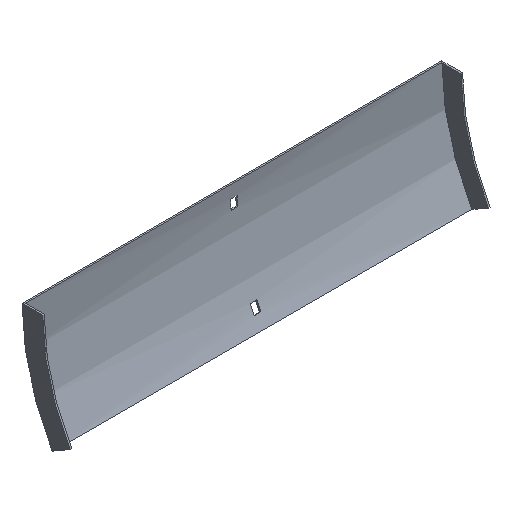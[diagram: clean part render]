
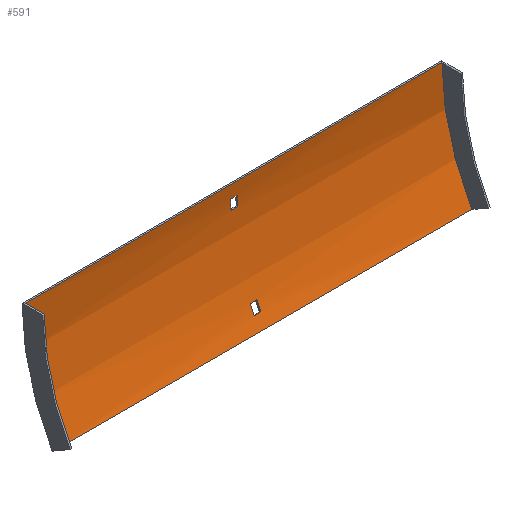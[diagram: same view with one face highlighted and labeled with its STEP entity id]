
A CAD part, isometric view. The second image highlights one B-rep face of the part: STEP entity #591.
In plain terms, the highlighted cylindrical face has radius 217.5 mm (diameter 435 mm), a partial arc.
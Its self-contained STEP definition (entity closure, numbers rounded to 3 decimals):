
#1 = CIRCLE ( 'NONE', #589, 217.5 ) ;
#2 = AXIS2_PLACEMENT_3D ( 'NONE', #277, #271, #31 ) ;
#4 = CARTESIAN_POINT ( 'NONE',  ( -3.25, -21.02, -90.055 ) ) ;
#9 = EDGE_CURVE ( 'NONE', #347, #408, #341, .T. ) ;
#17 = LINE ( 'NONE', #441, #20 ) ;
#20 = VECTOR ( 'NONE', #579, 1000. ) ;
#29 = ORIENTED_EDGE ( 'NONE', *, *, #130, .T. ) ;
#30 = VERTEX_POINT ( 'NONE', #133 ) ;
#31 = DIRECTION ( 'NONE',  ( 0., 0., -1. ) ) ;
#42 = CARTESIAN_POINT ( 'NONE',  ( 202., -1.5, 0. ) ) ;
#44 = DIRECTION ( 'NONE',  ( 0., 0., -1. ) ) ;
#58 = CARTESIAN_POINT ( 'NONE',  ( -202., -1.5, 0. ) ) ;
#62 = ORIENTED_EDGE ( 'NONE', *, *, #112, .T. ) ;
#66 = EDGE_LOOP ( 'NONE', ( #544, #265, #479, #169 ) ) ;
#67 = VERTEX_POINT ( 'NONE', #131 ) ;
#71 = LINE ( 'NONE', #396, #520 ) ;
#73 = VERTEX_POINT ( 'NONE', #505 ) ;
#75 = CARTESIAN_POINT ( 'NONE',  ( -3.25, -219., 0. ) ) ;
#80 = AXIS2_PLACEMENT_3D ( 'NONE', #607, #186, #326 ) ;
#88 = CARTESIAN_POINT ( 'NONE',  ( 202., -219., 0. ) ) ;
#90 = DIRECTION ( 'NONE',  ( -1., 0., 0. ) ) ;
#91 = VECTOR ( 'NONE', #90, 1000. ) ;
#112 = EDGE_CURVE ( 'NONE', #30, #67, #421, .T. ) ;
#120 = EDGE_CURVE ( 'NONE', #249, #122, #201, .T. ) ;
#121 = CIRCLE ( 'NONE', #561, 217.5 ) ;
#122 = VERTEX_POINT ( 'NONE', #42 ) ;
#130 = EDGE_CURVE ( 'NONE', #122, #147, #180, .T. ) ;
#131 = CARTESIAN_POINT ( 'NONE',  ( 3.25, -24.926, -98.192 ) ) ;
#133 = CARTESIAN_POINT ( 'NONE',  ( 3.25, -21.02, -90.055 ) ) ;
#141 = CIRCLE ( 'NONE', #2, 217.5 ) ;
#144 = CARTESIAN_POINT ( 'NONE',  ( 203.5, -219., 0. ) ) ;
#147 = VERTEX_POINT ( 'NONE', #58 ) ;
#153 = ORIENTED_EDGE ( 'NONE', *, *, #381, .T. ) ;
#155 = AXIS2_PLACEMENT_3D ( 'NONE', #88, #278, #463 ) ;
#169 = ORIENTED_EDGE ( 'NONE', *, *, #345, .F. ) ;
#175 = VECTOR ( 'NONE', #346, 1000. ) ;
#180 = LINE ( 'NONE', #370, #91 ) ;
#182 = CYLINDRICAL_SURFACE ( 'NONE', #485, 217.5 ) ;
#184 = DIRECTION ( 'NONE',  ( -1., 0., 0. ) ) ;
#186 = DIRECTION ( 'NONE',  ( -1., 0., 0. ) ) ;
#201 = CIRCLE ( 'NONE', #155, 217.5 ) ;
#246 = FACE_BOUND ( 'NONE', #66, .T. ) ;
#249 = VERTEX_POINT ( 'NONE', #339 ) ;
#261 = DIRECTION ( 'NONE',  ( 1., 0., 0. ) ) ;
#265 = ORIENTED_EDGE ( 'NONE', *, *, #412, .F. ) ;
#271 = DIRECTION ( 'NONE',  ( 1., 0., 0. ) ) ;
#277 = CARTESIAN_POINT ( 'NONE',  ( 3.25, -219., 0. ) ) ;
#278 = DIRECTION ( 'NONE',  ( 1., 0., 0. ) ) ;
#285 = EDGE_CURVE ( 'NONE', #359, #147, #121, .T. ) ;
#294 = EDGE_CURVE ( 'NONE', #590, #30, #17, .T. ) ;
#303 = CARTESIAN_POINT ( 'NONE',  ( -202., -30.639, -108.75 ) ) ;
#304 = EDGE_LOOP ( 'NONE', ( #432, #438, #486, #29 ) ) ;
#317 = DIRECTION ( 'NONE',  ( -1., 0., 0. ) ) ;
#319 = AXIS2_PLACEMENT_3D ( 'NONE', #557, #368, #555 ) ;
#325 = LINE ( 'NONE', #506, #343 ) ;
#326 = DIRECTION ( 'NONE',  ( 0., 0., 1. ) ) ;
#332 = CARTESIAN_POINT ( 'NONE',  ( 3.25, -1.831, -12. ) ) ;
#337 = EDGE_CURVE ( 'NONE', #67, #559, #532, .T. ) ;
#339 = CARTESIAN_POINT ( 'NONE',  ( 202., -30.639, -108.75 ) ) ;
#341 = CIRCLE ( 'NONE', #80, 217.5 ) ;
#343 = VECTOR ( 'NONE', #317, 1000. ) ;
#345 = EDGE_CURVE ( 'NONE', #408, #73, #71, .T. ) ;
#346 = DIRECTION ( 'NONE',  ( -1., 0., 0. ) ) ;
#347 = VERTEX_POINT ( 'NONE', #582 ) ;
#359 = VERTEX_POINT ( 'NONE', #303 ) ;
#368 = DIRECTION ( 'NONE',  ( -1., 0., 0. ) ) ;
#370 = CARTESIAN_POINT ( 'NONE',  ( 202., -1.5, 0. ) ) ;
#375 = DIRECTION ( 'NONE',  ( 0., 0., 1. ) ) ;
#381 = EDGE_CURVE ( 'NONE', #559, #590, #1, .T. ) ;
#383 = FACE_BOUND ( 'NONE', #495, .T. ) ;
#389 = EDGE_CURVE ( 'NONE', #249, #359, #325, .T. ) ;
#391 = DIRECTION ( 'NONE',  ( 1., 0., 0. ) ) ;
#396 = CARTESIAN_POINT ( 'NONE',  ( 203.5, -2.516, -21. ) ) ;
#403 = CARTESIAN_POINT ( 'NONE',  ( -202., -219., 0. ) ) ;
#408 = VERTEX_POINT ( 'NONE', #457 ) ;
#409 = DIRECTION ( 'NONE',  ( -1., 0., 0. ) ) ;
#412 = EDGE_CURVE ( 'NONE', #498, #347, #453, .T. ) ;
#418 = CARTESIAN_POINT ( 'NONE',  ( -3.25, -24.926, -98.192 ) ) ;
#419 = ORIENTED_EDGE ( 'NONE', *, *, #337, .T. ) ;
#421 = CIRCLE ( 'NONE', #319, 217.5 ) ;
#424 = EDGE_CURVE ( 'NONE', #73, #498, #141, .T. ) ;
#432 = ORIENTED_EDGE ( 'NONE', *, *, #285, .F. ) ;
#438 = ORIENTED_EDGE ( 'NONE', *, *, #389, .F. ) ;
#441 = CARTESIAN_POINT ( 'NONE',  ( 203.5, -21.02, -90.055 ) ) ;
#443 = VECTOR ( 'NONE', #409, 1000. ) ;
#450 = DIRECTION ( 'NONE',  ( 1., 0., 0. ) ) ;
#453 = LINE ( 'NONE', #592, #443 ) ;
#457 = CARTESIAN_POINT ( 'NONE',  ( -3.25, -2.516, -21. ) ) ;
#463 = DIRECTION ( 'NONE',  ( 0., 0., 1. ) ) ;
#479 = ORIENTED_EDGE ( 'NONE', *, *, #424, .F. ) ;
#485 = AXIS2_PLACEMENT_3D ( 'NONE', #144, #184, #375 ) ;
#486 = ORIENTED_EDGE ( 'NONE', *, *, #120, .T. ) ;
#488 = ORIENTED_EDGE ( 'NONE', *, *, #294, .T. ) ;
#495 = EDGE_LOOP ( 'NONE', ( #419, #153, #488, #62 ) ) ;
#498 = VERTEX_POINT ( 'NONE', #332 ) ;
#505 = CARTESIAN_POINT ( 'NONE',  ( 3.25, -2.516, -21. ) ) ;
#506 = CARTESIAN_POINT ( 'NONE',  ( 202., -30.639, -108.75 ) ) ;
#513 = FACE_OUTER_BOUND ( 'NONE', #304, .T. ) ;
#520 = VECTOR ( 'NONE', #261, 1000. ) ;
#532 = LINE ( 'NONE', #547, #175 ) ;
#544 = ORIENTED_EDGE ( 'NONE', *, *, #9, .F. ) ;
#547 = CARTESIAN_POINT ( 'NONE',  ( 203.5, -24.926, -98.192 ) ) ;
#555 = DIRECTION ( 'NONE',  ( 0., 0., 1. ) ) ;
#557 = CARTESIAN_POINT ( 'NONE',  ( 3.25, -219., 0. ) ) ;
#559 = VERTEX_POINT ( 'NONE', #418 ) ;
#561 = AXIS2_PLACEMENT_3D ( 'NONE', #403, #391, #588 ) ;
#579 = DIRECTION ( 'NONE',  ( 1., 0., 0. ) ) ;
#582 = CARTESIAN_POINT ( 'NONE',  ( -3.25, -1.831, -12. ) ) ;
#588 = DIRECTION ( 'NONE',  ( 0., 0., 1. ) ) ;
#589 = AXIS2_PLACEMENT_3D ( 'NONE', #75, #450, #44 ) ;
#590 = VERTEX_POINT ( 'NONE', #4 ) ;
#591 = ADVANCED_FACE ( 'NONE', ( #246, #513, #383 ), #182, .F. ) ;
#592 = CARTESIAN_POINT ( 'NONE',  ( 203.5, -1.831, -12. ) ) ;
#607 = CARTESIAN_POINT ( 'NONE',  ( -3.25, -219., 0. ) ) ;
